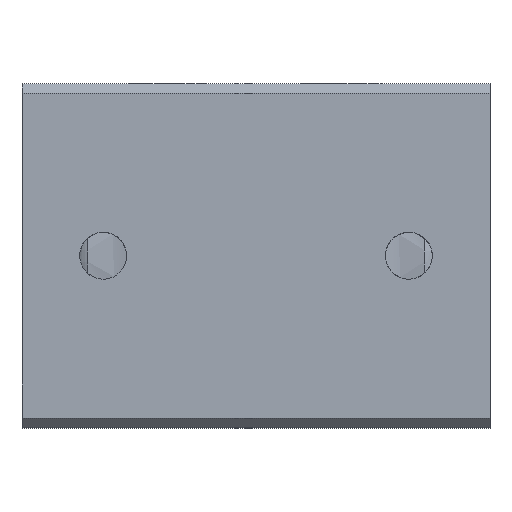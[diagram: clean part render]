
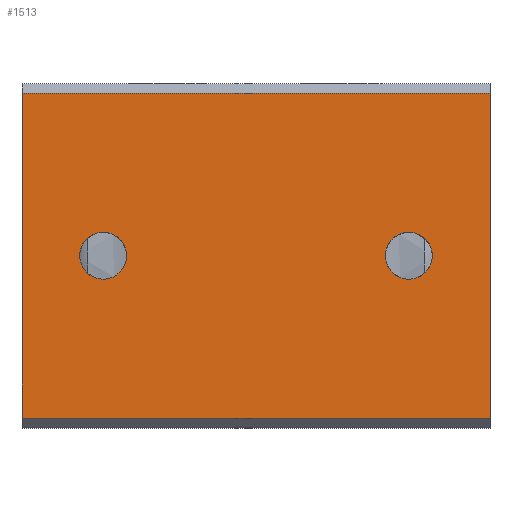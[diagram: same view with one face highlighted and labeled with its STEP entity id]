
A CAD part, top view. The second image highlights one B-rep face of the part: STEP entity #1513.
In plain terms, the highlighted planar face has unit normal (0, 0, 1).
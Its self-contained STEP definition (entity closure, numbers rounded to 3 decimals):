
#1361=CARTESIAN_POINT('',(49.0,-17.,24.0));
#1362=VERTEX_POINT('',#1361);
#1369=CARTESIAN_POINT('',(0.0,-17.,24.0));
#1370=VERTEX_POINT('',#1369);
#1371=CARTESIAN_POINT('',(49.0,-17.,24.0));
#1372=DIRECTION('',(-1.0,0.0,0.0));
#1373=VECTOR('',#1372,49.0);
#1374=LINE('',#1371,#1373);
#1375=EDGE_CURVE('',#1362,#1370,#1374,.T.);
#1400=CARTESIAN_POINT('',(0.0,17.,24.0));
#1401=VERTEX_POINT('',#1400);
#1402=CARTESIAN_POINT('',(0.0,-17.,24.0));
#1403=DIRECTION('',(0.0,1.0,0.0));
#1404=VECTOR('',#1403,34.);
#1405=LINE('',#1402,#1404);
#1406=EDGE_CURVE('',#1370,#1401,#1405,.T.);
#1468=CARTESIAN_POINT('',(0.0,-18.,24.0));
#1469=DIRECTION('',(0.0,0.0,1.0));
#1470=DIRECTION('',(1.0,0.0,0.0));
#1471=AXIS2_PLACEMENT_3D('',#1468,#1469,#1470);
#1472=PLANE('',#1471);
#1473=ORIENTED_EDGE('',*,*,#1375,.F.);
#1474=CARTESIAN_POINT('',(49.0,17.,24.0));
#1475=VERTEX_POINT('',#1474);
#1476=CARTESIAN_POINT('',(49.0,-17.,24.0));
#1477=DIRECTION('',(0.0,1.0,0.0));
#1478=VECTOR('',#1477,34.);
#1479=LINE('',#1476,#1478);
#1480=EDGE_CURVE('',#1362,#1475,#1479,.T.);
#1481=ORIENTED_EDGE('',*,*,#1480,.T.);
#1482=CARTESIAN_POINT('',(0.0,17.,24.0));
#1483=DIRECTION('',(1.0,0.0,0.0));
#1484=VECTOR('',#1483,49.0);
#1485=LINE('',#1482,#1484);
#1486=EDGE_CURVE('',#1401,#1475,#1485,.T.);
#1487=ORIENTED_EDGE('',*,*,#1486,.F.);
#1488=ORIENTED_EDGE('',*,*,#1406,.F.);
#1489=EDGE_LOOP('',(#1473,#1481,#1487,#1488));
#1490=FACE_OUTER_BOUND('',#1489,.T.);
#1491=CARTESIAN_POINT('',(10.959,0.0,24.));
#1492=VERTEX_POINT('',#1491);
#1493=CARTESIAN_POINT('',(8.5,0.0,24.));
#1494=DIRECTION('',(0.0,0.0,-1.0));
#1495=DIRECTION('',(1.0,0.0,0.0));
#1496=AXIS2_PLACEMENT_3D('',#1493,#1494,#1495);
#1497=CIRCLE('',#1496,2.459);
#1498=EDGE_CURVE('',#1492,#1492,#1497,.T.);
#1499=ORIENTED_EDGE('',*,*,#1498,.T.);
#1500=EDGE_LOOP('',(#1499));
#1501=FACE_BOUND('',#1500,.T.);
#1502=CARTESIAN_POINT('',(42.959,0.,24.));
#1503=VERTEX_POINT('',#1502);
#1504=CARTESIAN_POINT('',(40.5,0.,24.));
#1505=DIRECTION('',(0.0,0.0,-1.0));
#1506=DIRECTION('',(1.0,0.0,0.0));
#1507=AXIS2_PLACEMENT_3D('',#1504,#1505,#1506);
#1508=CIRCLE('',#1507,2.459);
#1509=EDGE_CURVE('',#1503,#1503,#1508,.T.);
#1510=ORIENTED_EDGE('',*,*,#1509,.T.);
#1511=EDGE_LOOP('',(#1510));
#1512=FACE_BOUND('',#1511,.T.);
#1513=ADVANCED_FACE('',(#1490,#1501,#1512),#1472,.T.);
